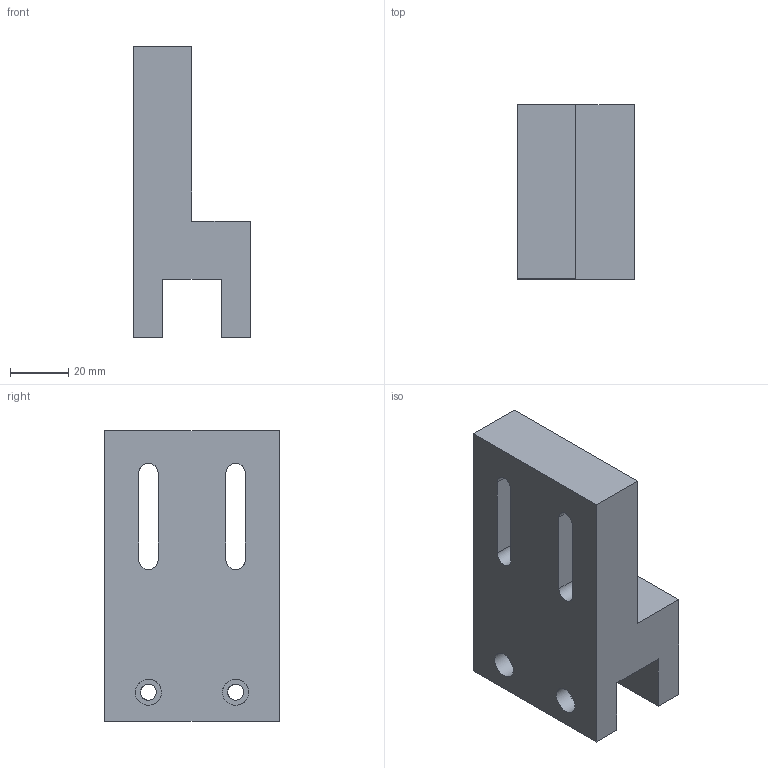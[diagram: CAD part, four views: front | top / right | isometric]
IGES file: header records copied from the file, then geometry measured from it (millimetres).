
Global section: file name: 固定件1; native system: Autodesk Inventor 2025; preprocessor: unknown; author: 97163; date: 20260318.135316; units: millimetre
Bounding box: 40.1 x 60 x 100 mm (x, y, z)
Volume: 128091.9 mm3; surface area: 27429.4 mm2
Topology: 1 solids, 1 shells, 42 faces, 114 edges, 80 vertices
Faces by surface type: bspline 42
